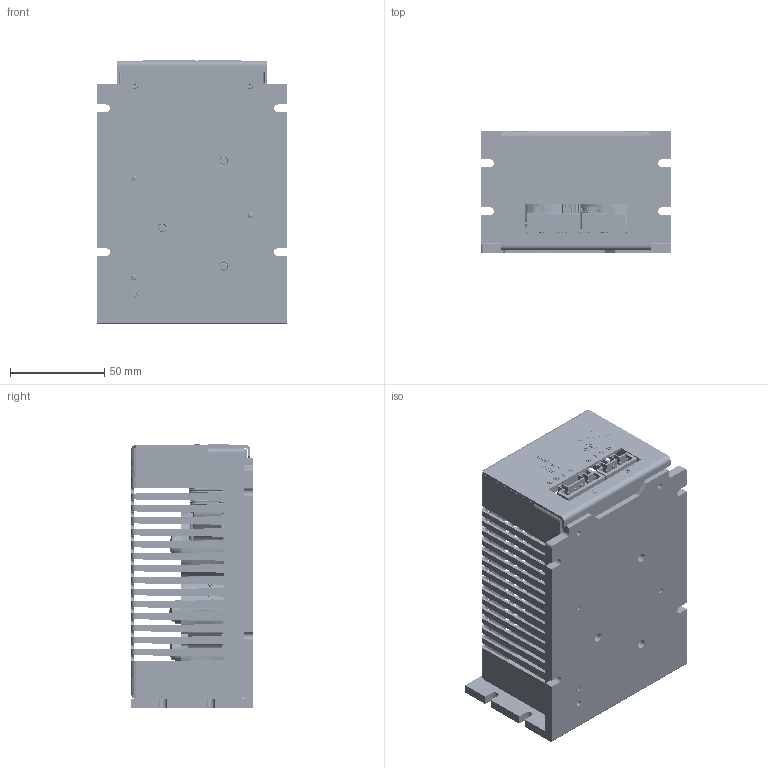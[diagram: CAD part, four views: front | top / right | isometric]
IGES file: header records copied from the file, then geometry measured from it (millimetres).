
Start section: SolidWorks IGES file using analytic representation for surfaces
Global section: file name: K:\ALL Users\Chris Roy\Projects\CMS\Customer Files\Xenus Filter\Xenus Filter.IGS; native system: SolidWorks 2005 by SolidWorks Corporation; preprocessor: SolidWorks 2005 by SolidWorks Corporation; author: croy; date: 050725.151450; units: inch
Bounding box: 101.19 x 64.83 x 139.89 mm (x, y, z)
Surface area: 169334.4 mm2 (no closed solid volume)
Topology: 0 solids, 0 shells, 3890 faces, 90495 edges, 110121 vertices
Faces by surface type: bspline 2186, revolution 1704
